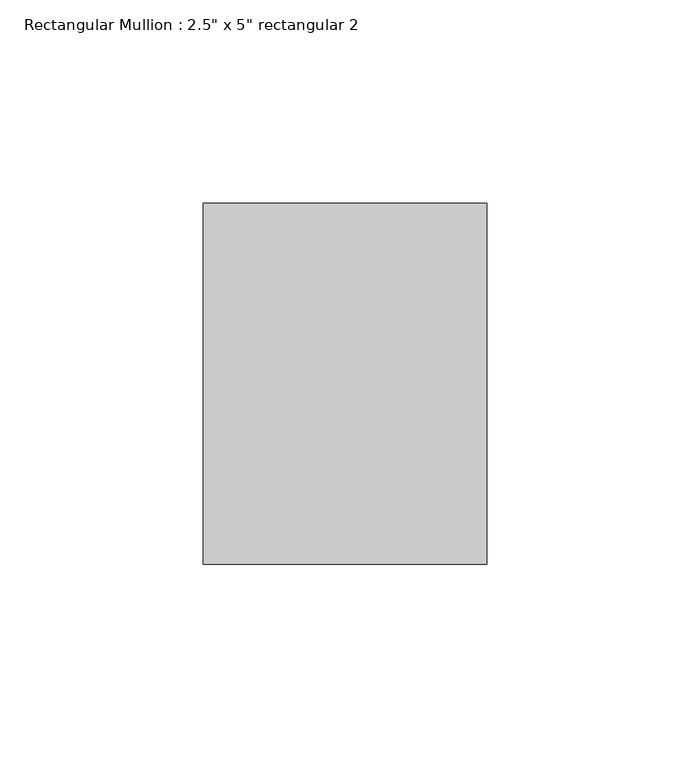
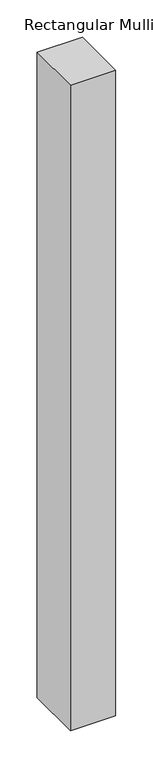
"""IFC4 building model written with IfcOpenShell, lengths in millimetres: member geometry."""

from ifc_helpers import new_model, si_unit, frame, origin, place, context, project, spatial, polyline, outline, extrude, source, transform, mapped, element, save


def member_4863c741(model_context):
    return source(origin(), model_context, "Body", "SweptSolid", [
        extrude(outline(polyline([(0.0, 44.45), (0.0, -44.45), (-69.85, -44.45), (-69.85, 44.45), (0.0, 44.45)])), frame((0.0, 0.0, -1054.1), z_axis=(0.0, 0.0, 1.0), x_axis=(1.0, 0.0, 0.0)), (0.0, 0.0, 1.0), 1054.1),
    ])


if __name__ == "__main__":
    model = new_model("IFC4")
    model_context = context("Model", 3, world=origin())
    ifc_project = project(units=[si_unit("LENGTHUNIT", "METRE", prefix="MILLI")], contexts=[model_context])
    site = spatial("IfcSite", under=ifc_project)
    building = spatial("IfcBuilding", under=site)
    placement = place(None, origin())
    member_shape = member_4863c741(model_context)
    element("IfcMember", 1, ObjectType="Rectangular Mullion : 2.5\" x 5\" rectangular 2", at=placement, inside=building, context=model_context, shape_type="MappedRepresentation", body=[
        mapped(member_shape, transform((0.0, 0.0, 0.0), x_axis=(1.0, 0.0, 0.0), y_axis=(0.0, 1.0, 0.0), z_axis=(0.0, 0.0, 1.0))),
    ])
    save(model, "model.ifc")
